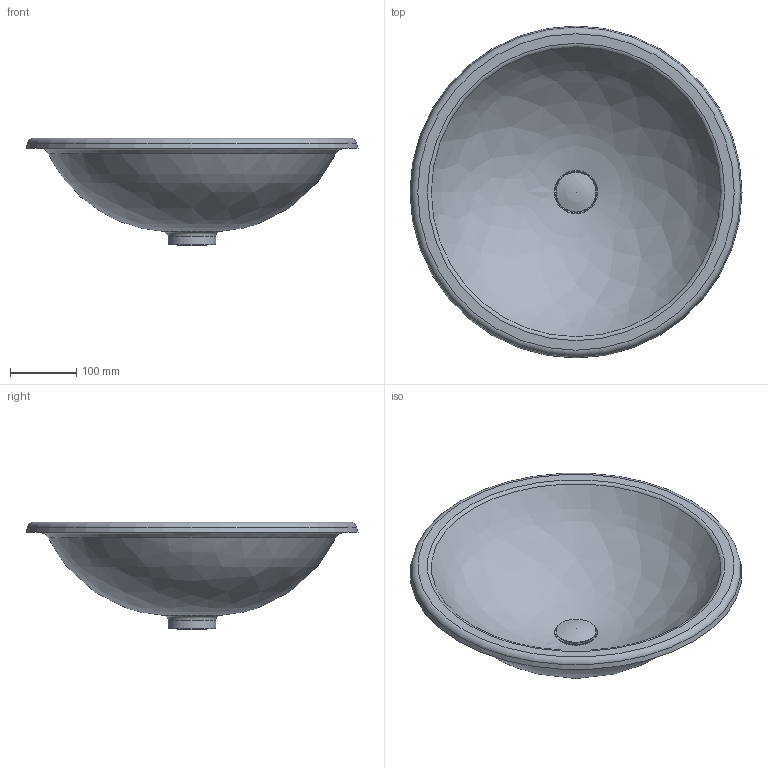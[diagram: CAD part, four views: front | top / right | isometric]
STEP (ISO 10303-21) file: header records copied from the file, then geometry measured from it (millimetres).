
FILE_DESCRIPTION((''),'2;1');
FILE_NAME('C:\Dokumente und Einstellungen\Huebner\Eigene Dateien\PRIVAT3\3D\Architec\ARCHITEC_STEP\031850.stp','2008-01-16T12:38:45',('Huebner'),(''),'Autodesk Inventor 11','Autodesk Inventor 11','');
FILE_SCHEMA(('AUTOMOTIVE_DESIGN { 1 0 10303 214 1 1 1 1 }'));
Length unit declared in the file: millimetre
Products named in the file (4): 31850; Kelch; Stopfen
Assembly tree (3 placements, depth 2):
  31850
    31850
    Kelch
    Stopfen
Bounding box: 500 x 500 x 161.7 mm (x, y, z)
Volume: 4224611.4 mm3; surface area: 541331 mm2
Topology: 3 solids, 3 shells, 45 faces, 104 edges, 66 vertices
Faces by surface type: plane 15, cylinder 13, torus 8, bspline 5, cone 4
Full cylindrical faces by diameter (mm): 42 x1, 44 x1, 52 x1, 60 x1, 72 x1
Entity records: 1669 total; most frequent: CARTESIAN_POINT 628, DIRECTION 212, ORIENTED_EDGE 166, AXIS2_PLACEMENT_3D 90, EDGE_CURVE 83, EDGE_LOOP 68, VERTEX_POINT 63, FACE_OUTER_BOUND 45
